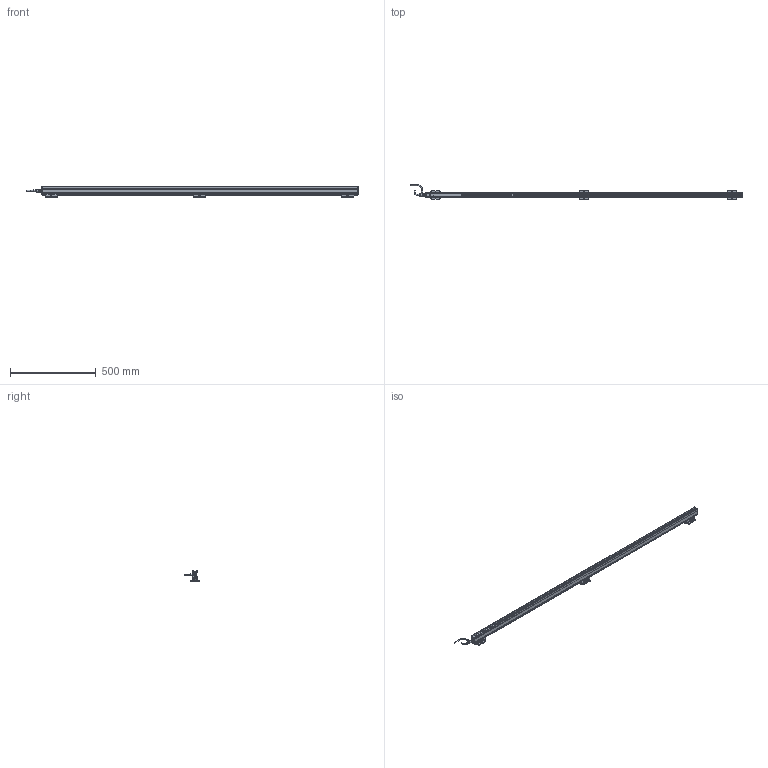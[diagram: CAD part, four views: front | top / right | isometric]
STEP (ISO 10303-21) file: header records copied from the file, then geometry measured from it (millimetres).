
FILE_DESCRIPTION(('Bauteilbeschreibung','HiCAD-Model','HiCAD-STEP-TRANSLATION','Bauteilbeschreibung'),'2;1');
FILE_NAME('PERFORMAXIQEASY_1770-1860_3D.STP','2014-03-05T11:48:09+00:00',('Konstrukteur'),('Konstrukteur Firma GmbH'),' HiCAD 2011, Step 1600.0 ','HiCAD 2011','confidential');
FILE_SCHEMA(('AUTOMOTIVE_DESIGN { 1 2 10303 214 0 1 1 1 }'));
Products named in the file (43): PERFORMAXIQEASY_1770_1860_3D; A_PERFORMAX IQ EASY 1770_1860; A_PERFORMAX IQ EASY SPEED; A_CAP DE; A_CAP CE_5; GROUP; PIN; GROUP0; PIN0; LED_2C_3MM; LED02C03MM; A519020315_CONNECTOR APPLIANCE; A_INSERT; A_CONTACTS; A_HOUSING; A_PROFILE; A_POTTING; A532000100_BRACKET BARS_ MOUNT; A_SIDE PIECE; A0SIDE0PIECE; A_BRACKET SMALL; A_SLIDE PIECE; A5320001000BRACKET0BARS00MOUNT; A0SIDE0PIECE0; A0SIDE0PIECE1; A0BRACKET0SMALL; A0SLIDE0PIECE; A5320001000BRACKET0BARS00MOUNT0; A0SIDE0PIECE2; A0SIDE0PIECE3; A0BRACKET0SMALL0; A0SLIDE0PIECE0; A_CONNECTOR STRAIGHT; EXTRUDED SOLID_0; DRAAD GEBOGEN; REVOLVED SOLID_1; REVOLVED SOLID_3; A_CONNECTOR ANGLED; REVOLVED0SOLID01; EXTRUDED0SOLID00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
Assembly tree (42 placements, depth 5):
  PERFORMAXIQEASY_1770_1860_3D
    A_PERFORMAX IQ EASY 1770_1860
      A_PERFORMAX IQ EASY SPEED
        A_CAP DE
        A_CAP CE_5
        GROUP
          PIN
        GROUP0
          PIN0
        LED_2C_3MM
        LED02C03MM
        A519020315_CONNECTOR APPLIANCE
          A_INSERT
          A_CONTACTS
          A_HOUSING
        A_PROFILE
        A_POTTING
      A532000100_BRACKET BARS_ MOUNT
        A_SIDE PIECE
        A0SIDE0PIECE
        A_BRACKET SMALL
        A_SLIDE PIECE
      A5320001000BRACKET0BARS00MOUNT
        A0SIDE0PIECE0
        A0SIDE0PIECE1
        A0BRACKET0SMALL
        A0SLIDE0PIECE
      A5320001000BRACKET0BARS00MOUNT0
        A0SIDE0PIECE2
        A0SIDE0PIECE3
        A0BRACKET0SMALL0
        A0SLIDE0PIECE0
      A_CONNECTOR STRAIGHT
        EXTRUDED SOLID_0
        DRAAD GEBOGEN
        REVOLVED SOLID_1
        REVOLVED SOLID_3
      A_CONNECTOR ANGLED
        REVOLVED0SOLID01
        EXTRUDED0SOLID00
        C_EDGE SWEEP_0
        REVOLVED SOLID_2
        REVOLVED0SOLID03
Bounding box: 1937.89 x 84.27 x 63.13 mm (x, y, z)
Volume: 1919497.3 mm3; surface area: 475612.3 mm2
Topology: 37 solids, 37 shells, 2679 faces, 6860 edges, 4096 vertices
Faces by surface type: cylinder 1117, plane 1033, sphere 167, torus 158, bspline 128, cone 76
Full cylindrical faces by diameter (mm): 0.8 x10, 1 x5, 2.387 x6, 3 x15, 3.1 x1, 4.2 x2, 5 x4, 5.5 x15, 8 x2, 8.2 x1, 8.4 x2, 8.945 x1, 9 x2, 10.2 x1, 10.5 x3, 11 x1, 12 x3, 12.8 x1, 13.8 x4, 14.5 x3
Entity records: 123325 total; most frequent: CARTESIAN_POINT 28458, DIRECTION 13337, ORIENTED_EDGE 12962, EDGE_CURVE 6481, COLOUR_RGB 6168, PRESENTATION_STYLE_ASSIGNMENT 6168, OVER_RIDING_STYLED_ITEM 6136, CURVE_STYLE 6131
